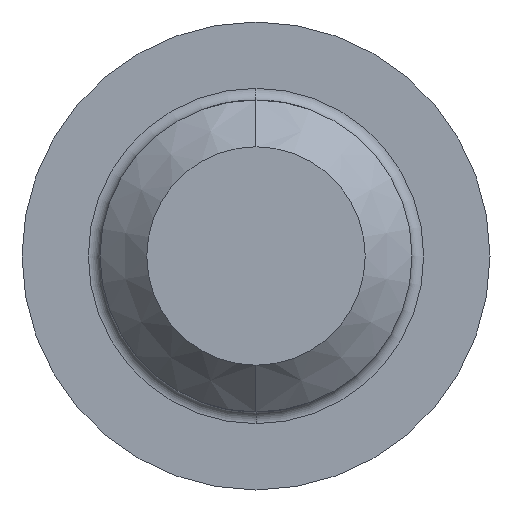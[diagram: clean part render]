
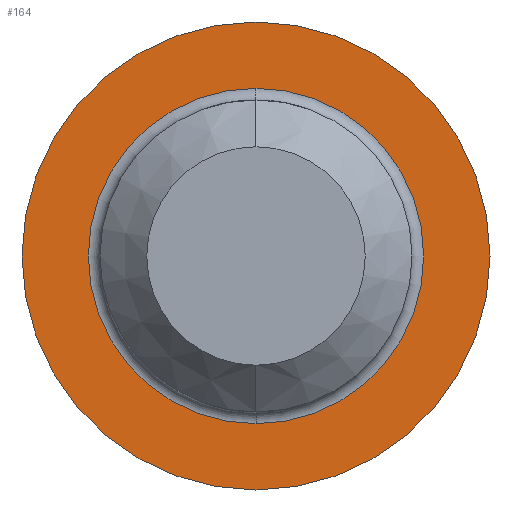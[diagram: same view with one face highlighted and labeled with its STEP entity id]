
A CAD part, left-side view. The second image highlights one B-rep face of the part: STEP entity #164.
In plain terms, the highlighted planar face has unit normal (-1, 0, 0).
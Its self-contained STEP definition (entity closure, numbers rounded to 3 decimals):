
#3 = EDGE_CURVE ( 'NONE', #88, #92, #163, .T. ) ;
#4 = ORIENTED_EDGE ( 'NONE', *, *, #131, .T. ) ;
#24 = EDGE_LOOP ( 'NONE', ( #47, #4 ) ) ;
#27 = EDGE_CURVE ( 'NONE', #133, #132, #152, .T. ) ;
#47 = ORIENTED_EDGE ( 'NONE', *, *, #27, .T. ) ;
#88 = VERTEX_POINT ( 'NONE', #332 ) ;
#92 = VERTEX_POINT ( 'NONE', #329 ) ;
#96 = EDGE_CURVE ( 'NONE', #92, #88, #326, .T. ) ;
#131 = EDGE_CURVE ( 'NONE', #132, #133, #430, .T. ) ;
#132 = VERTEX_POINT ( 'NONE', #452 ) ;
#133 = VERTEX_POINT ( 'NONE', #469 ) ;
#152 = CIRCLE ( 'NONE', #213, 4.3 ) ;
#156 = DIRECTION ( 'NONE',  ( 0., 0., -1. ) ) ;
#157 = DIRECTION ( 'NONE',  ( 1., 0., 0. ) ) ;
#163 = CIRCLE ( 'NONE', #260, 6. ) ;
#164 = ADVANCED_FACE ( 'NONE', ( #476, #470 ), #474, .F. ) ;
#172 = DIRECTION ( 'NONE',  ( 0., 0., 1. ) ) ;
#173 = DIRECTION ( 'NONE',  ( -1., 0., 0. ) ) ;
#205 = CARTESIAN_POINT ( 'NONE',  ( 0., 0., 0. ) ) ;
#213 = AXIS2_PLACEMENT_3D ( 'NONE', #205, #157, #156 ) ;
#239 = ORIENTED_EDGE ( 'NONE', *, *, #96, .T. ) ;
#241 = ORIENTED_EDGE ( 'NONE', *, *, #3, .T. ) ;
#259 = CARTESIAN_POINT ( 'NONE',  ( 0., 0., 0. ) ) ;
#260 = AXIS2_PLACEMENT_3D ( 'NONE', #259, #173, #172 ) ;
#268 = EDGE_LOOP ( 'NONE', ( #239, #241 ) ) ;
#323 = DIRECTION ( 'NONE',  ( 0., 0., 1. ) ) ;
#324 = DIRECTION ( 'NONE',  ( -1., 0., 0. ) ) ;
#326 = CIRCLE ( 'NONE', #328, 6. ) ;
#328 = AXIS2_PLACEMENT_3D ( 'NONE', #343, #324, #323 ) ;
#329 = CARTESIAN_POINT ( 'NONE',  ( 0., 0., 6. ) ) ;
#332 = CARTESIAN_POINT ( 'NONE',  ( 0., 0., -6. ) ) ;
#343 = CARTESIAN_POINT ( 'NONE',  ( 0., 0., 0. ) ) ;
#427 = DIRECTION ( 'NONE',  ( 0., 0., -1. ) ) ;
#428 = DIRECTION ( 'NONE',  ( 1., 0., 0. ) ) ;
#429 = AXIS2_PLACEMENT_3D ( 'NONE', #438, #428, #427 ) ;
#430 = CIRCLE ( 'NONE', #429, 4.3 ) ;
#438 = CARTESIAN_POINT ( 'NONE',  ( 0., 0., 0. ) ) ;
#452 = CARTESIAN_POINT ( 'NONE',  ( 0., 0., 4.3 ) ) ;
#463 = DIRECTION ( 'NONE',  ( 0., 0., -1. ) ) ;
#464 = DIRECTION ( 'NONE',  ( 1., 0., 0. ) ) ;
#467 = CARTESIAN_POINT ( 'NONE',  ( 0., 6., 0. ) ) ;
#469 = CARTESIAN_POINT ( 'NONE',  ( 0., 0., -4.3 ) ) ;
#470 = FACE_OUTER_BOUND ( 'NONE', #268, .T. ) ;
#471 = AXIS2_PLACEMENT_3D ( 'NONE', #467, #464, #463 ) ;
#474 = PLANE ( 'NONE',  #471 ) ;
#476 = FACE_BOUND ( 'NONE', #24, .T. ) ;
